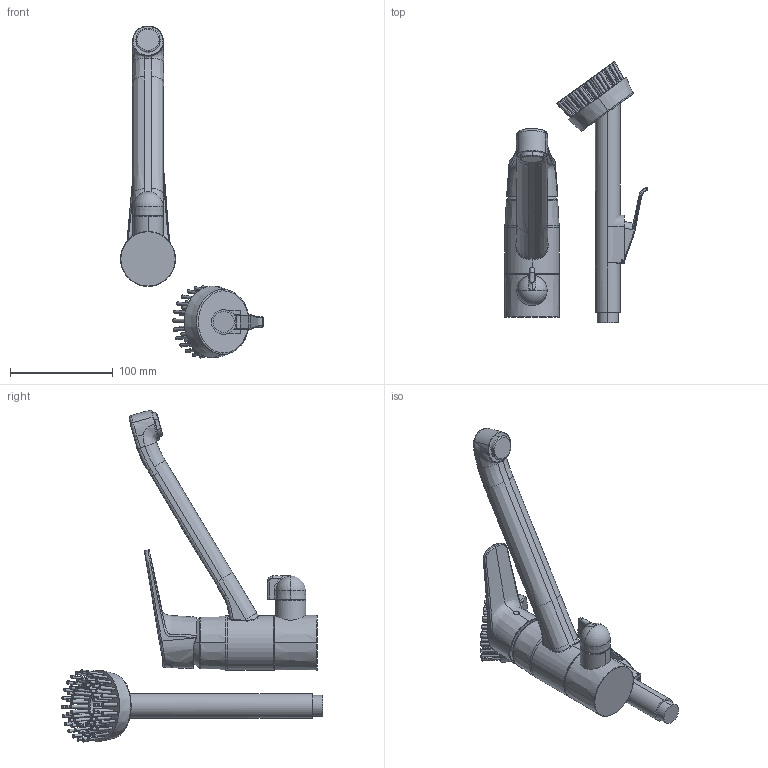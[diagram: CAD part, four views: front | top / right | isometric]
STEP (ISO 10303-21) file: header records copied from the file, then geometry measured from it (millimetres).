
FILE_DESCRIPTION (( 'STEP AP203' ), '1' );
FILE_NAME ('1829G(2018).STEP', '2019-06-03T05:45:24', ( '' ), ( '' ), 'SwSTEP 2.0', 'SolidWorks 2016', '' );
FILE_SCHEMA (( 'CONFIG_CONTROL_DESIGN' ));
Length unit declared in the file: millimetre
Products named in the file (1): 1829G(2018)
Bounding box: 139.5 x 254.81 x 323.72 mm (x, y, z)
Volume: 672897.9 mm3; surface area: 124567.3 mm2
Topology: 13 solids, 13 shells, 529 faces, 1206 edges, 765 vertices
Faces by surface type: bspline 171, cone 161, plane 128, cylinder 51, torus 17, sphere 1
Entity records: 46207 total; most frequent: CARTESIAN_POINT 36487, ORIENTED_EDGE 2398, DIRECTION 1293, EDGE_CURVE 1199, VERTEX_POINT 765, B_SPLINE_CURVE_WITH_KNOTS 609, EDGE_LOOP 600, ADVANCED_FACE 529
